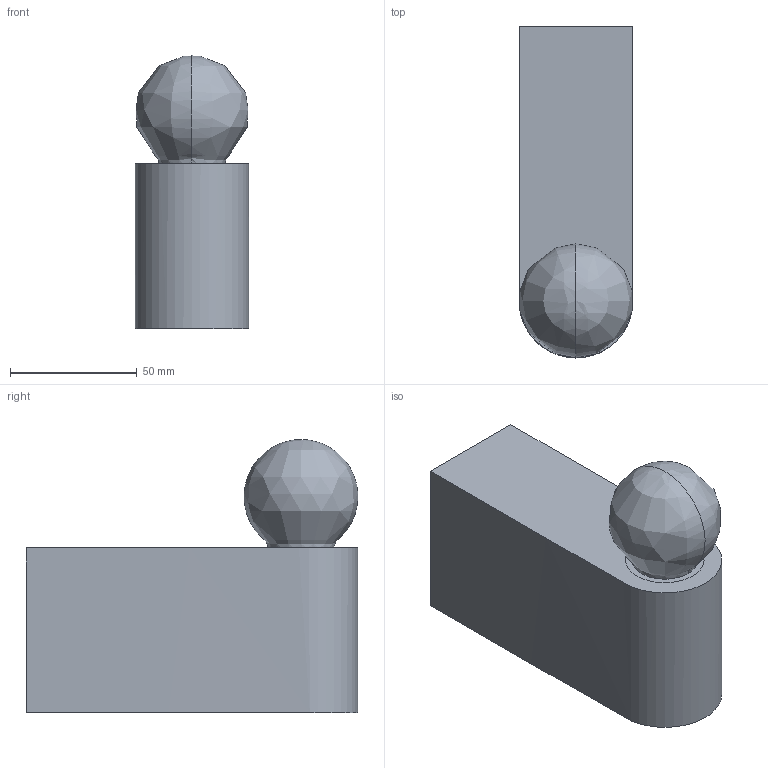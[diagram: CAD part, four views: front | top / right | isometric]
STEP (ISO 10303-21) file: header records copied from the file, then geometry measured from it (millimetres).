
FILE_DESCRIPTION(/* description */ (''),/* implementation_level */ '2;1');
FILE_NAME(/* name */ 'D2, 2019',/* time_stamp */ '2020-10-09T17:35:15+01:00',/* author */ (''),/* organization */ (''),/* preprocessor_version */ 'ST-DEVELOPER v15',/* originating_system */ '',/* authorisation */ '');
FILE_SCHEMA (('AUTOMOTIVE_DESIGN'));
Length unit declared in the file: millimetre
Products named in the file (1): Document
Bounding box: 45 x 131.01 x 107.84 mm (x, y, z)
Volume: 418969 mm3; surface area: 38433.4 mm2
Topology: 1 solids, 1 shells, 7 faces, 13 edges, 8 vertices
Faces by surface type: plane 4, bspline 3
Entity records: 432 total; most frequent: CARTESIAN_POINT 325, ORIENTED_EDGE 22, EDGE_CURVE 11, EDGE_LOOP 9, VERTEX_POINT 8, DIRECTION 8, ADVANCED_FACE 7, FACE_OUTER_BOUND 7
